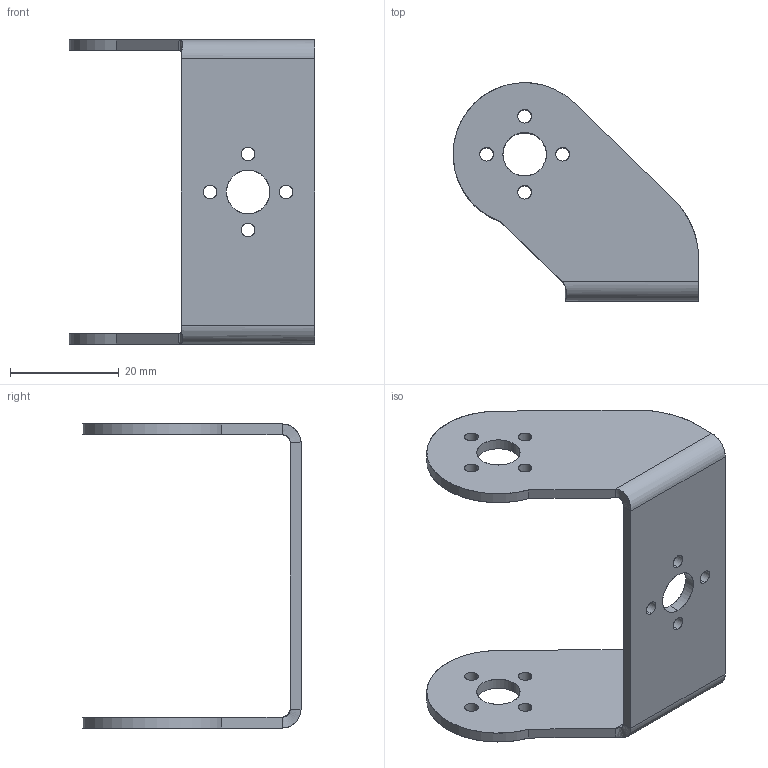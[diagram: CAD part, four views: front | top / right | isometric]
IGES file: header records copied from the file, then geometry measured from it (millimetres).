
Start section: SolidWorks IGES file using analytic representation for surfaces
Global section: file name: D:\Autres\Projets\CAO\Servo Brackets\Offset Bracket.IGS; native system: SolidWorks 2015; preprocessor: SolidWorks 2015; author: Hendricks; date: 150615.051120; units: millimetre
Bounding box: 45.28 x 40.18 x 56 mm (x, y, z)
Surface area: 7674.2 mm2 (no closed solid volume)
Topology: 0 solids, 0 shells, 56 faces, 1408 edges, 1408 vertices
Faces by surface type: revolution 38, bspline 18
